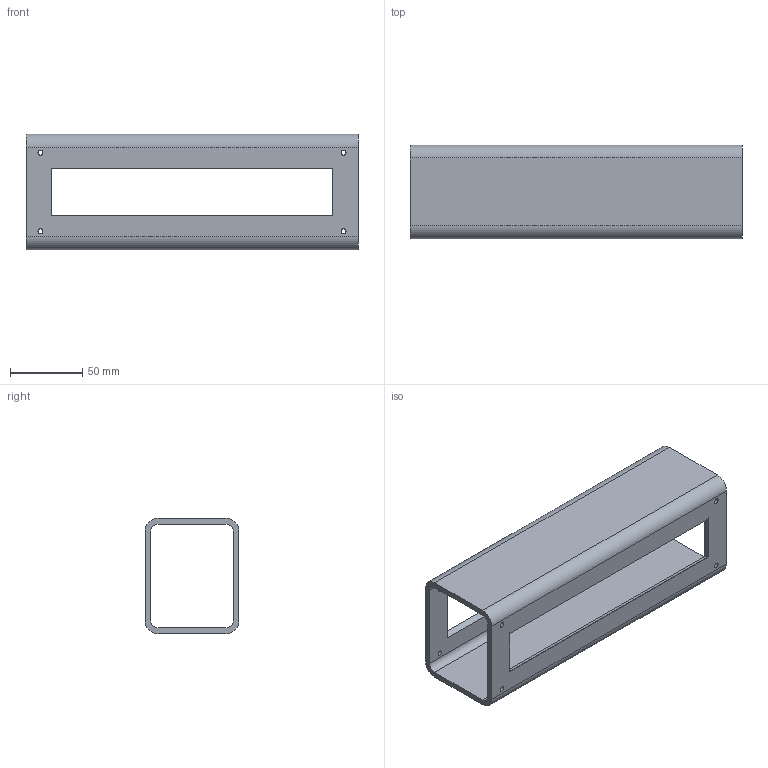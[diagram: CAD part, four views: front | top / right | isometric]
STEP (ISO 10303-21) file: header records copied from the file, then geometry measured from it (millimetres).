
FILE_DESCRIPTION(('Open CASCADE Model'),'2;1');
FILE_NAME('Open CASCADE Shape Model','2026-10-17T16:45:04',('Author'),( 'Open CASCADE'),'Open CASCADE STEP processor 8.0','build123d', 'Unknown');
FILE_SCHEMA(('AUTOMOTIVE_DESIGN { 1 0 10303 214 1 1 1 1 }'));
Length unit declared in the file: millimetre
Products named in the file (1): COMPOUND
Bounding box: 230 x 65 x 80 mm (x, y, z)
Volume: 186452.1 mm3; surface area: 100457.4 mm2
Topology: 1 solids, 1 shells, 34 faces, 96 edges, 64 vertices
Faces by surface type: cylinder 20, plane 14
Full cylindrical faces by diameter (mm): 3.4 x8
Entity records: 2454 total; most frequent: CARTESIAN_POINT 571, DIRECTION 334, ORIENTED_EDGE 192, PCURVE 192, DEFINITIONAL_REPRESENTATION 192, LINE 168, VECTOR 168, EDGE_CURVE 96
